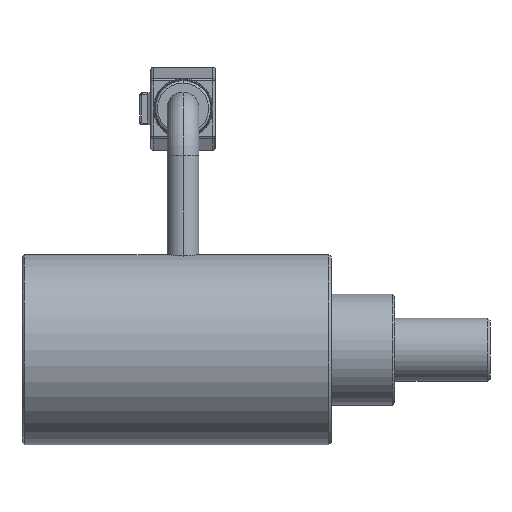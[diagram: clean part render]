
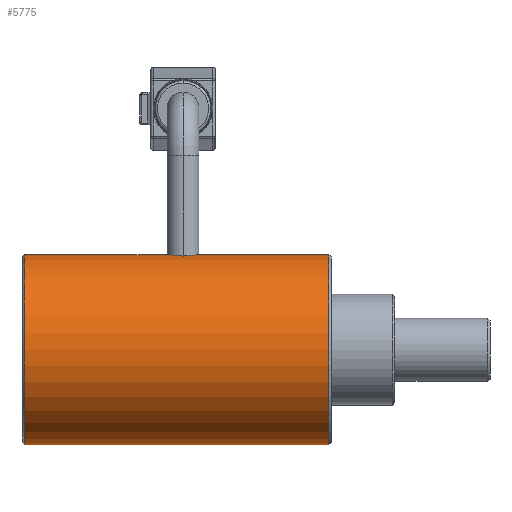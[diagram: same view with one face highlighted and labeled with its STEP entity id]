
A CAD part, top view. The second image highlights one B-rep face of the part: STEP entity #5775.
In plain terms, the highlighted cylindrical face has radius 12 mm (diameter 24 mm), a partial arc.
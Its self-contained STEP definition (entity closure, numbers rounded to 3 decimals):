
#72 = VERTEX_POINT ( 'NONE', #2996 ) ;
#309 = LINE ( 'NONE', #4078, #5313 ) ;
#396 = DIRECTION ( 'NONE',  ( 1., 0., 0. ) ) ;
#507 = CARTESIAN_POINT ( 'NONE',  ( 18.98, 23.905, -10.492 ) ) ;
#538 = ORIENTED_EDGE ( 'NONE', *, *, #7602, .F. ) ;
#652 = CARTESIAN_POINT ( 'NONE',  ( 22.3, 24., -12. ) ) ;
#681 = CARTESIAN_POINT ( 'NONE',  ( 20.3, 23.832, -10. ) ) ;
#885 = EDGE_CURVE ( 'NONE', #5850, #6968, #3940, .T. ) ;
#890 = CYLINDRICAL_SURFACE ( 'NONE', #7145, 12. ) ;
#1029 = AXIS2_PLACEMENT_3D ( 'NONE', #3890, #3197, #1778 ) ;
#1047 = VERTEX_POINT ( 'NONE', #8071 ) ;
#1105 = VECTOR ( 'NONE', #1238, 1000. ) ;
#1238 = DIRECTION ( 'NONE',  ( 1., 0., 0. ) ) ;
#1365 = CARTESIAN_POINT ( 'NONE',  ( 20.82, 23.841, -10.051 ) ) ;
#1383 = EDGE_CURVE ( 'NONE', #3675, #1047, #3170, .T. ) ;
#1496 = CARTESIAN_POINT ( 'NONE',  ( 19.411, 23.865, -10.204 ) ) ;
#1577 = CARTESIAN_POINT ( 'NONE',  ( 18.3, 24., -11.738 ) ) ;
#1771 = DIRECTION ( 'NONE',  ( 0., -1., 0. ) ) ;
#1778 = DIRECTION ( 'NONE',  ( 0., -1., 0. ) ) ;
#1825 = CIRCLE ( 'NONE', #1029, 12. ) ;
#2251 = CARTESIAN_POINT ( 'NONE',  ( 18.696, 23.939, -10.776 ) ) ;
#2391 = CIRCLE ( 'NONE', #3244, 12. ) ;
#2393 = CARTESIAN_POINT ( 'NONE',  ( 18.3, 24., -12. ) ) ;
#2452 = CARTESIAN_POINT ( 'NONE',  ( 0., 12., -12. ) ) ;
#2547 = CARTESIAN_POINT ( 'NONE',  ( 22.3, 24., -11.869 ) ) ;
#2620 = ORIENTED_EDGE ( 'NONE', *, *, #7056, .T. ) ;
#2627 = CARTESIAN_POINT ( 'NONE',  ( 0.3, 24., -12. ) ) ;
#2711 = EDGE_LOOP ( 'NONE', ( #6093, #2620, #3125, #538, #7106, #4276, #6474 ) ) ;
#2734 = CARTESIAN_POINT ( 'NONE',  ( 20.3, 23.832, -10. ) ) ;
#2996 = CARTESIAN_POINT ( 'NONE',  ( 38.7, 0., -12. ) ) ;
#3125 = ORIENTED_EDGE ( 'NONE', *, *, #885, .T. ) ;
#3170 = LINE ( 'NONE', #6266, #3565 ) ;
#3197 = DIRECTION ( 'NONE',  ( -1., 0., 0. ) ) ;
#3244 = AXIS2_PLACEMENT_3D ( 'NONE', #7451, #396, #6848 ) ;
#3267 = CARTESIAN_POINT ( 'NONE',  ( 22.287, 23.998, -11.739 ) ) ;
#3316 = CARTESIAN_POINT ( 'NONE',  ( 22.198, 23.983, -11.357 ) ) ;
#3482 = CARTESIAN_POINT ( 'NONE',  ( 19.296, 23.874, -10.265 ) ) ;
#3565 = VECTOR ( 'NONE', #7586, 1000. ) ;
#3597 = EDGE_CURVE ( 'NONE', #6736, #72, #309, .T. ) ;
#3675 = VERTEX_POINT ( 'NONE', #6526 ) ;
#3728 = CARTESIAN_POINT ( 'NONE',  ( 19.08, 23.894, -10.41 ) ) ;
#3792 = CARTESIAN_POINT ( 'NONE',  ( 18.3, 24., -12. ) ) ;
#3890 = CARTESIAN_POINT ( 'NONE',  ( 0.3, 12., -12. ) ) ;
#3940 = B_SPLINE_CURVE_WITH_KNOTS ( 'NONE', 3,
 ( #2734, #4123, #4743, #1496, #3482, #3728, #507, #2251, #8232, #8278, #1577, #3792 ),
 .UNSPECIFIED., .F., .F.,
 ( 4, 2, 2, 2, 2, 4 ),
 ( 0., 0.25, 0.375, 0.5, 0.75, 1. ),
 .UNSPECIFIED. ) ;
#3955 = DIRECTION ( 'NONE',  ( 1., 0., 0. ) ) ;
#4078 = CARTESIAN_POINT ( 'NONE',  ( 0.3, 0., -12. ) ) ;
#4123 = CARTESIAN_POINT ( 'NONE',  ( 20.035, 23.832, -10. ) ) ;
#4276 = ORIENTED_EDGE ( 'NONE', *, *, #3597, .T. ) ;
#4457 = DIRECTION ( 'NONE',  ( -1., 0., 0. ) ) ;
#4499 = FACE_OUTER_BOUND ( 'NONE', #2711, .T. ) ;
#4743 = CARTESIAN_POINT ( 'NONE',  ( 19.778, 23.841, -10.051 ) ) ;
#5114 = CARTESIAN_POINT ( 'NONE',  ( 0.3, 24., -12. ) ) ;
#5243 = CARTESIAN_POINT ( 'NONE',  ( 22.237, 23.99, -11.484 ) ) ;
#5313 = VECTOR ( 'NONE', #3955, 1000. ) ;
#5775 = ADVANCED_FACE ( 'NONE', ( #4499 ), #890, .T. ) ;
#5804 = LINE ( 'NONE', #2627, #1105 ) ;
#5850 = VERTEX_POINT ( 'NONE', #8063 ) ;
#5893 = CARTESIAN_POINT ( 'NONE',  ( 21.526, 23.894, -10.398 ) ) ;
#5992 = VERTEX_POINT ( 'NONE', #5114 ) ;
#6057 = EDGE_CURVE ( 'NONE', #6736, #5992, #1825, .T. ) ;
#6093 = ORIENTED_EDGE ( 'NONE', *, *, #1383, .F. ) ;
#6266 = CARTESIAN_POINT ( 'NONE',  ( 22.3, 24., -12. ) ) ;
#6370 = CARTESIAN_POINT ( 'NONE',  ( 0.3, 0., -12. ) ) ;
#6474 = ORIENTED_EDGE ( 'NONE', *, *, #8415, .F. ) ;
#6526 = CARTESIAN_POINT ( 'NONE',  ( 22.3, 24., -12. ) ) ;
#6736 = VERTEX_POINT ( 'NONE', #6370 ) ;
#6848 = DIRECTION ( 'NONE',  ( 0., 1., 0. ) ) ;
#6968 = VERTEX_POINT ( 'NONE', #2393 ) ;
#7056 = EDGE_CURVE ( 'NONE', #3675, #5850, #8189, .T. ) ;
#7106 = ORIENTED_EDGE ( 'NONE', *, *, #6057, .F. ) ;
#7145 = AXIS2_PLACEMENT_3D ( 'NONE', #2452, #4457, #1771 ) ;
#7146 = CARTESIAN_POINT ( 'NONE',  ( 21.902, 23.939, -10.773 ) ) ;
#7451 = CARTESIAN_POINT ( 'NONE',  ( 38.7, 12., -12. ) ) ;
#7586 = DIRECTION ( 'NONE',  ( 1., 0., 0. ) ) ;
#7602 = EDGE_CURVE ( 'NONE', #5992, #6968, #5804, .T. ) ;
#7820 = CARTESIAN_POINT ( 'NONE',  ( 20.565, 23.832, -10. ) ) ;
#7851 = CARTESIAN_POINT ( 'NONE',  ( 22.048, 23.96, -10.991 ) ) ;
#8063 = CARTESIAN_POINT ( 'NONE',  ( 20.3, 23.832, -10. ) ) ;
#8071 = CARTESIAN_POINT ( 'NONE',  ( 38.7, 24., -12. ) ) ;
#8189 = B_SPLINE_CURVE_WITH_KNOTS ( 'NONE', 3,
 ( #652, #2547, #3267, #5243, #3316, #7851, #7146, #5893, #8400, #1365, #7820, #681 ),
 .UNSPECIFIED., .F., .F.,
 ( 4, 2, 2, 2, 2, 4 ),
 ( 0., 0.125, 0.25, 0.5, 0.75, 1. ),
 .UNSPECIFIED. ) ;
#8232 = CARTESIAN_POINT ( 'NONE',  ( 18.551, 23.96, -10.993 ) ) ;
#8278 = CARTESIAN_POINT ( 'NONE',  ( 18.35, 23.991, -11.484 ) ) ;
#8400 = CARTESIAN_POINT ( 'NONE',  ( 21.311, 23.873, -10.254 ) ) ;
#8415 = EDGE_CURVE ( 'NONE', #1047, #72, #2391, .T. ) ;
